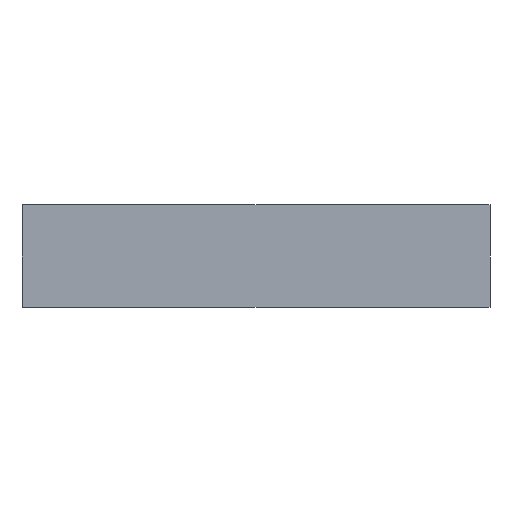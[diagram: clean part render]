
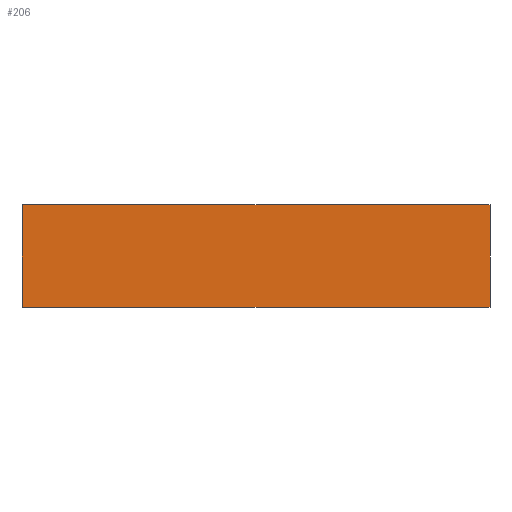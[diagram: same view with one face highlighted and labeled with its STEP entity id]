
A CAD part, top view. The second image highlights one B-rep face of the part: STEP entity #206.
In plain terms, the highlighted planar face has unit normal (0, 0, 1).
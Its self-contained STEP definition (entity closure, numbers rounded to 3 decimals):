
#44 = PLANE('',#45);
#45 = AXIS2_PLACEMENT_3D('',#46,#47,#48);
#46 = CARTESIAN_POINT('',(-838.,185.077,13.));
#47 = DIRECTION('',(-0.707,-0.,-0.707));
#48 = DIRECTION('',(-0.707,0.,0.707));
#71 = PLANE('',#72);
#72 = AXIS2_PLACEMENT_3D('',#73,#74,#75);
#73 = CARTESIAN_POINT('',(0.,370.155,
    13.011));
#74 = DIRECTION('',(0.,1.,0.));
#75 = DIRECTION('',(0.,-0.,1.));
#98 = PLANE('',#99);
#99 = AXIS2_PLACEMENT_3D('',#100,#101,#102);
#100 = CARTESIAN_POINT('',(838.,185.077,13.));
#101 = DIRECTION('',(0.707,0.,-0.707));
#102 = DIRECTION('',(0.707,0.,0.707));
#123 = PLANE('',#124);
#124 = AXIS2_PLACEMENT_3D('',#125,#126,#127);
#125 = CARTESIAN_POINT('',(0.,0.,13.011));
#126 = DIRECTION('',(-0.,-1.,-0.));
#127 = DIRECTION('',(0.,0.,-1.));
#139 = VERTEX_POINT('',#140);
#140 = CARTESIAN_POINT('',(841.,0.,16.));
#160 = EDGE_CURVE('',#161,#139,#163,.T.);
#161 = VERTEX_POINT('',#162);
#162 = CARTESIAN_POINT('',(-841.,0.,16.));
#163 = SURFACE_CURVE('',#164,(#168,#174),.PCURVE_S1.);
#164 = LINE('',#165,#166);
#165 = CARTESIAN_POINT('',(-841.,0.,16.));
#166 = VECTOR('',#167,1.);
#167 = DIRECTION('',(1.,0.,0.));
#168 = PCURVE('',#123,#169);
#169 = DEFINITIONAL_REPRESENTATION('',(#170),#173);
#170 = B_SPLINE_CURVE_WITH_KNOTS('',1,(#171,#172),.UNSPECIFIED.,.F.,.F.,
  (2,2),(0.,1682.),.PIECEWISE_BEZIER_KNOTS.);
#171 = CARTESIAN_POINT('',(-2.989,-841.));
#172 = CARTESIAN_POINT('',(-2.989,841.));
#173 = ( GEOMETRIC_REPRESENTATION_CONTEXT(2) 
PARAMETRIC_REPRESENTATION_CONTEXT() REPRESENTATION_CONTEXT('2D SPACE',''
  ) );
#174 = PCURVE('',#175,#180);
#175 = PLANE('',#176);
#176 = AXIS2_PLACEMENT_3D('',#177,#178,#179);
#177 = CARTESIAN_POINT('',(0.,185.077,16.));
#178 = DIRECTION('',(0.,0.,1.));
#179 = DIRECTION('',(1.,0.,-0.));
#180 = DEFINITIONAL_REPRESENTATION('',(#181),#185);
#181 = LINE('',#182,#183);
#182 = CARTESIAN_POINT('',(-841.,-185.077));
#183 = VECTOR('',#184,1.);
#184 = DIRECTION('',(1.,0.));
#185 = ( GEOMETRIC_REPRESENTATION_CONTEXT(2) 
PARAMETRIC_REPRESENTATION_CONTEXT() REPRESENTATION_CONTEXT('2D SPACE',''
  ) );
#206 = ADVANCED_FACE('',(#207),#175,.T.);
#207 = FACE_BOUND('',#208,.T.);
#208 = EDGE_LOOP('',(#209,#210,#232,#254));
#209 = ORIENTED_EDGE('',*,*,#160,.T.);
#210 = ORIENTED_EDGE('',*,*,#211,.T.);
#211 = EDGE_CURVE('',#139,#212,#214,.T.);
#212 = VERTEX_POINT('',#213);
#213 = CARTESIAN_POINT('',(841.,370.155,16.));
#214 = SURFACE_CURVE('',#215,(#219,#226),.PCURVE_S1.);
#215 = LINE('',#216,#217);
#216 = CARTESIAN_POINT('',(841.,0.,16.));
#217 = VECTOR('',#218,1.);
#218 = DIRECTION('',(0.,1.,0.));
#219 = PCURVE('',#175,#220);
#220 = DEFINITIONAL_REPRESENTATION('',(#221),#225);
#221 = LINE('',#222,#223);
#222 = CARTESIAN_POINT('',(841.,-185.077));
#223 = VECTOR('',#224,1.);
#224 = DIRECTION('',(0.,1.));
#225 = ( GEOMETRIC_REPRESENTATION_CONTEXT(2) 
PARAMETRIC_REPRESENTATION_CONTEXT() REPRESENTATION_CONTEXT('2D SPACE',''
  ) );
#226 = PCURVE('',#98,#227);
#227 = DEFINITIONAL_REPRESENTATION('',(#228),#231);
#228 = B_SPLINE_CURVE_WITH_KNOTS('',1,(#229,#230),.UNSPECIFIED.,.F.,.F.,
  (2,2),(0.,370.155),.PIECEWISE_BEZIER_KNOTS.);
#229 = CARTESIAN_POINT('',(4.243,185.077));
#230 = CARTESIAN_POINT('',(4.243,-185.077));
#231 = ( GEOMETRIC_REPRESENTATION_CONTEXT(2) 
PARAMETRIC_REPRESENTATION_CONTEXT() REPRESENTATION_CONTEXT('2D SPACE',''
  ) );
#232 = ORIENTED_EDGE('',*,*,#233,.T.);
#233 = EDGE_CURVE('',#212,#234,#236,.T.);
#234 = VERTEX_POINT('',#235);
#235 = CARTESIAN_POINT('',(-841.,370.155,16.));
#236 = SURFACE_CURVE('',#237,(#241,#248),.PCURVE_S1.);
#237 = LINE('',#238,#239);
#238 = CARTESIAN_POINT('',(841.,370.155,16.));
#239 = VECTOR('',#240,1.);
#240 = DIRECTION('',(-1.,0.,0.));
#241 = PCURVE('',#175,#242);
#242 = DEFINITIONAL_REPRESENTATION('',(#243),#247);
#243 = LINE('',#244,#245);
#244 = CARTESIAN_POINT('',(841.,185.077));
#245 = VECTOR('',#246,1.);
#246 = DIRECTION('',(-1.,0.));
#247 = ( GEOMETRIC_REPRESENTATION_CONTEXT(2) 
PARAMETRIC_REPRESENTATION_CONTEXT() REPRESENTATION_CONTEXT('2D SPACE',''
  ) );
#248 = PCURVE('',#71,#249);
#249 = DEFINITIONAL_REPRESENTATION('',(#250),#253);
#250 = B_SPLINE_CURVE_WITH_KNOTS('',1,(#251,#252),.UNSPECIFIED.,.F.,.F.,
  (2,2),(0.,1682.),.PIECEWISE_BEZIER_KNOTS.);
#251 = CARTESIAN_POINT('',(2.989,841.));
#252 = CARTESIAN_POINT('',(2.989,-841.));
#253 = ( GEOMETRIC_REPRESENTATION_CONTEXT(2) 
PARAMETRIC_REPRESENTATION_CONTEXT() REPRESENTATION_CONTEXT('2D SPACE',''
  ) );
#254 = ORIENTED_EDGE('',*,*,#255,.T.);
#255 = EDGE_CURVE('',#234,#161,#256,.T.);
#256 = SURFACE_CURVE('',#257,(#261,#268),.PCURVE_S1.);
#257 = LINE('',#258,#259);
#258 = CARTESIAN_POINT('',(-841.,370.155,16.));
#259 = VECTOR('',#260,1.);
#260 = DIRECTION('',(0.,-1.,0.));
#261 = PCURVE('',#175,#262);
#262 = DEFINITIONAL_REPRESENTATION('',(#263),#267);
#263 = LINE('',#264,#265);
#264 = CARTESIAN_POINT('',(-841.,185.077));
#265 = VECTOR('',#266,1.);
#266 = DIRECTION('',(0.,-1.));
#267 = ( GEOMETRIC_REPRESENTATION_CONTEXT(2) 
PARAMETRIC_REPRESENTATION_CONTEXT() REPRESENTATION_CONTEXT('2D SPACE',''
  ) );
#268 = PCURVE('',#44,#269);
#269 = DEFINITIONAL_REPRESENTATION('',(#270),#273);
#270 = B_SPLINE_CURVE_WITH_KNOTS('',1,(#271,#272),.UNSPECIFIED.,.F.,.F.,
  (2,2),(0.,370.155),.PIECEWISE_BEZIER_KNOTS.);
#271 = CARTESIAN_POINT('',(4.243,185.077));
#272 = CARTESIAN_POINT('',(4.243,-185.077));
#273 = ( GEOMETRIC_REPRESENTATION_CONTEXT(2) 
PARAMETRIC_REPRESENTATION_CONTEXT() REPRESENTATION_CONTEXT('2D SPACE',''
  ) );
